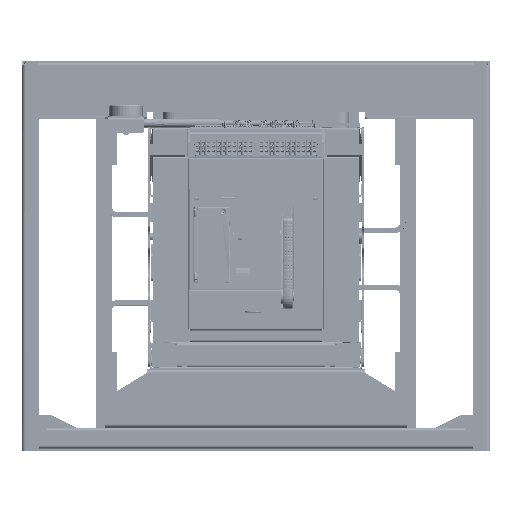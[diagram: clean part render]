
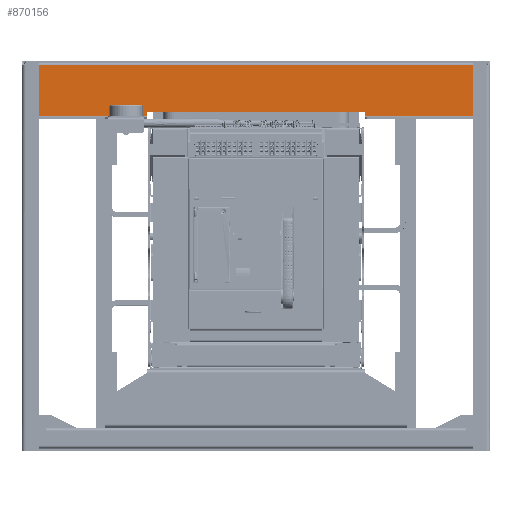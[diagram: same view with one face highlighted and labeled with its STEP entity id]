
A CAD part, top view. The second image highlights one B-rep face of the part: STEP entity #870156.
In plain terms, the highlighted planar face has unit normal (0, 0, 1).
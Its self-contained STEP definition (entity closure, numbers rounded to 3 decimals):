
#2119 = LINE ( 'NONE', #331094, #126792 ) ;
#18101 = LINE ( 'NONE', #821418, #948064 ) ;
#22282 = CARTESIAN_POINT ( 'NONE',  ( 440., 741.5, 720.5 ) ) ;
#44672 = VECTOR ( 'NONE', #744508, 1000. ) ;
#63740 = EDGE_CURVE ( 'NONE', #744937, #633833, #470953, .T. ) ;
#98458 = ORIENTED_EDGE ( 'NONE', *, *, #480650, .T. ) ;
#102867 = DIRECTION ( 'NONE',  ( -1., 0., 0. ) ) ;
#119160 = DIRECTION ( 'NONE',  ( 0., 0., -1. ) ) ;
#126792 = VECTOR ( 'NONE', #249561, 1000. ) ;
#133081 = CARTESIAN_POINT ( 'NONE',  ( -440., 643., 720.5 ) ) ;
#150049 = AXIS2_PLACEMENT_3D ( 'NONE', #1014508, #119160, #1018323 ) ;
#169056 = CARTESIAN_POINT ( 'NONE',  ( -440., 741.5, 720.5 ) ) ;
#180804 = CARTESIAN_POINT ( 'NONE',  ( -210., 643., 720.5 ) ) ;
#249561 = DIRECTION ( 'NONE',  ( 0., 1., 0. ) ) ;
#268611 = LINE ( 'NONE', #1003885, #1128679 ) ;
#269496 = CARTESIAN_POINT ( 'NONE',  ( 440., 746., 720.5 ) ) ;
#273534 = VECTOR ( 'NONE', #1072192, 1000. ) ;
#298225 = VECTOR ( 'NONE', #634557, 1000. ) ;
#315937 = VERTEX_POINT ( 'NONE', #133081 ) ;
#326008 = LINE ( 'NONE', #22282, #298225 ) ;
#331094 = CARTESIAN_POINT ( 'NONE',  ( -210., 746., 720.5 ) ) ;
#395719 = CARTESIAN_POINT ( 'NONE',  ( 210., 651., 720.5 ) ) ;
#407683 = VERTEX_POINT ( 'NONE', #879924 ) ;
#429936 = EDGE_CURVE ( 'NONE', #1044845, #407683, #537048, .T. ) ;
#445795 = ORIENTED_EDGE ( 'NONE', *, *, #429936, .F. ) ;
#455346 = EDGE_CURVE ( 'NONE', #1044845, #594424, #326008, .T. ) ;
#459381 = CARTESIAN_POINT ( 'NONE',  ( 440., 643., 720.5 ) ) ;
#468452 = DIRECTION ( 'NONE',  ( 0., -1., 0. ) ) ;
#470953 = LINE ( 'NONE', #764523, #1150720 ) ;
#471338 = ORIENTED_EDGE ( 'NONE', *, *, #1051386, .F. ) ;
#480650 = EDGE_CURVE ( 'NONE', #979356, #744937, #2119, .T. ) ;
#488622 = EDGE_CURVE ( 'NONE', #594424, #315937, #18101, .T. ) ;
#537048 = LINE ( 'NONE', #269496, #273534 ) ;
#555315 = EDGE_CURVE ( 'NONE', #633833, #641861, #557410, .T. ) ;
#557410 = LINE ( 'NONE', #569942, #44672 ) ;
#557801 = CARTESIAN_POINT ( 'NONE',  ( 440., 741.5, 720.5 ) ) ;
#569942 = CARTESIAN_POINT ( 'NONE',  ( 210., 746., 720.5 ) ) ;
#587339 = ORIENTED_EDGE ( 'NONE', *, *, #455346, .T. ) ;
#594424 = VERTEX_POINT ( 'NONE', #169056 ) ;
#633833 = VERTEX_POINT ( 'NONE', #395719 ) ;
#634557 = DIRECTION ( 'NONE',  ( -1., 0., 0. ) ) ;
#636286 = VECTOR ( 'NONE', #102867, 1000. ) ;
#641861 = VERTEX_POINT ( 'NONE', #694971 ) ;
#653813 = PLANE ( 'NONE',  #150049 ) ;
#694971 = CARTESIAN_POINT ( 'NONE',  ( 210., 643., 720.5 ) ) ;
#712959 = CARTESIAN_POINT ( 'NONE',  ( -210., 651., 720.5 ) ) ;
#744508 = DIRECTION ( 'NONE',  ( 0., -1., 0. ) ) ;
#744937 = VERTEX_POINT ( 'NONE', #712959 ) ;
#764523 = CARTESIAN_POINT ( 'NONE',  ( 440., 651., 720.5 ) ) ;
#821418 = CARTESIAN_POINT ( 'NONE',  ( -440., 746., 720.5 ) ) ;
#830163 = LINE ( 'NONE', #459381, #636286 ) ;
#868905 = ORIENTED_EDGE ( 'NONE', *, *, #63740, .T. ) ;
#870156 = ADVANCED_FACE ( 'NONE', ( #953584 ), #653813, .F. ) ;
#871268 = ORIENTED_EDGE ( 'NONE', *, *, #555315, .T. ) ;
#879924 = CARTESIAN_POINT ( 'NONE',  ( 440., 643., 720.5 ) ) ;
#903184 = DIRECTION ( 'NONE',  ( -1., 0., 0. ) ) ;
#927673 = DIRECTION ( 'NONE',  ( 1., 0., 0. ) ) ;
#948064 = VECTOR ( 'NONE', #468452, 1000. ) ;
#953584 = FACE_OUTER_BOUND ( 'NONE', #1145239, .T. ) ;
#977096 = EDGE_CURVE ( 'NONE', #407683, #641861, #830163, .T. ) ;
#979356 = VERTEX_POINT ( 'NONE', #180804 ) ;
#1003885 = CARTESIAN_POINT ( 'NONE',  ( 440., 643., 720.5 ) ) ;
#1014508 = CARTESIAN_POINT ( 'NONE',  ( 440., 746., 720.5 ) ) ;
#1018323 = DIRECTION ( 'NONE',  ( 0., 1., 0. ) ) ;
#1030487 = ORIENTED_EDGE ( 'NONE', *, *, #977096, .F. ) ;
#1044845 = VERTEX_POINT ( 'NONE', #557801 ) ;
#1051386 = EDGE_CURVE ( 'NONE', #979356, #315937, #268611, .T. ) ;
#1072192 = DIRECTION ( 'NONE',  ( 0., -1., 0. ) ) ;
#1079446 = ORIENTED_EDGE ( 'NONE', *, *, #488622, .T. ) ;
#1128679 = VECTOR ( 'NONE', #903184, 1000. ) ;
#1145239 = EDGE_LOOP ( 'NONE', ( #471338, #98458, #868905, #871268, #1030487, #445795, #587339, #1079446 ) ) ;
#1150720 = VECTOR ( 'NONE', #927673, 1000. ) ;
